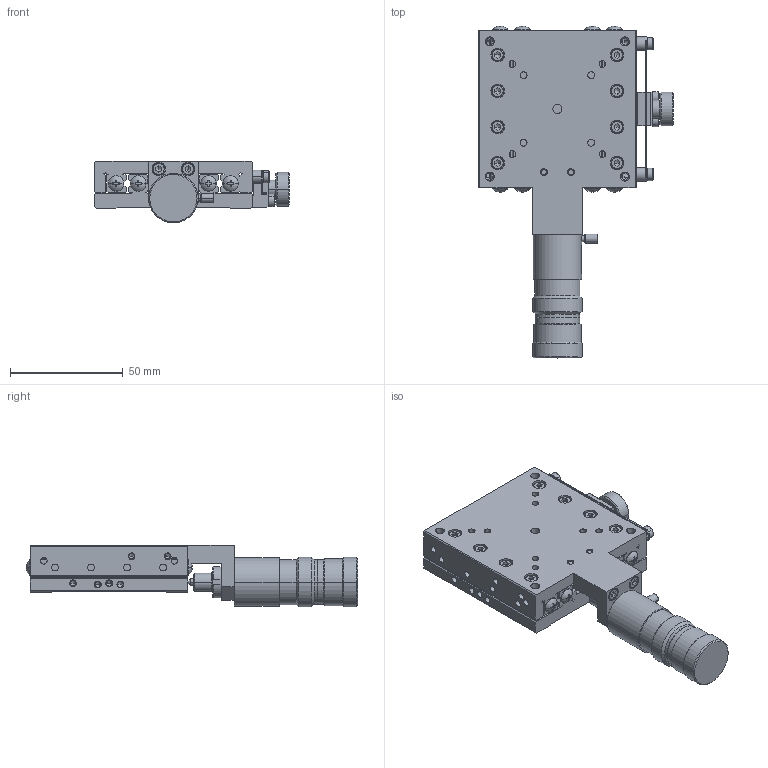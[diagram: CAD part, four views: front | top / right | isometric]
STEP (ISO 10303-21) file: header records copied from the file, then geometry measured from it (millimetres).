
FILE_DESCRIPTION (( 'STEP AP214' ), '1' );
FILE_NAME ('XM07F-C3Z-CL.STEP', '2009-05-11T05:50:03', ( ' ' ), ( ' ' ), 'SwSTEP 2.0', 'SolidWorks 2008', '' );
FILE_SCHEMA (( 'AUTOMOTIVE_DESIGN' ));
Length unit declared in the file: millimetre
Products named in the file (5): 001550-1023(3D)-Part-1-5; 001550-1011(3D)-5; XM07F-C3Z-CL; 001550-1023(3D)-Part-2-5; 001550-1023(3D)-5
Assembly tree (4 placements, depth 3):
  XM07F-C3Z-CL
    001550-1011(3D)-5
    001550-1023(3D)-5
      001550-1023(3D)-Part-1-5
      001550-1023(3D)-Part-2-5
Bounding box: 86.5 x 147.37 x 27.5 mm (x, y, z)
Volume: 109576.9 mm3; surface area: 53221.8 mm2
Topology: 3 solids, 41 shells, 1785 faces, 4328 edges, 2620 vertices
Faces by surface type: plane 804, cylinder 565, cone 383, sphere 17, torus 16
Entity records: 52701 total; most frequent: CARTESIAN_POINT 10439, DIRECTION 9289, ORIENTED_EDGE 8476, EDGE_CURVE 4238, AXIS2_PLACEMENT_3D 3563, VERTEX_POINT 2619, VECTOR 2163, LINE 2163
